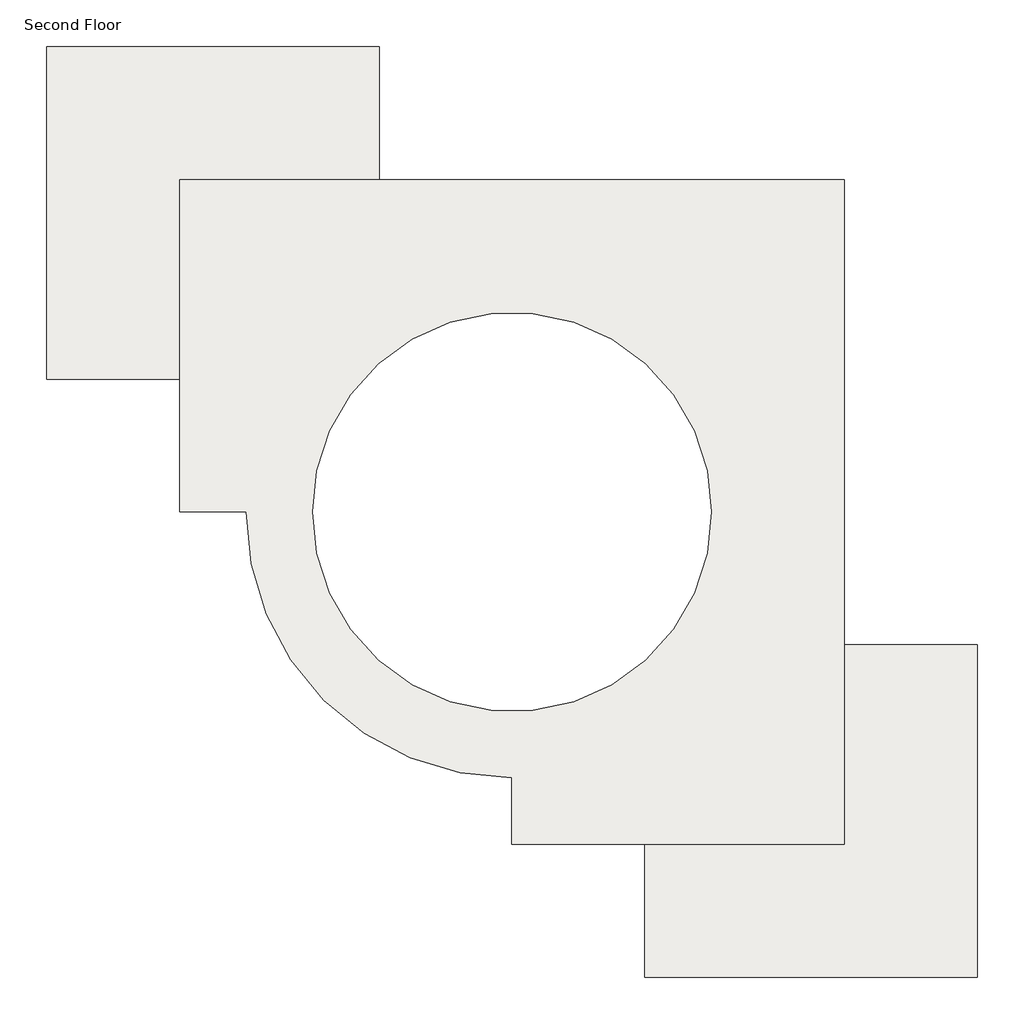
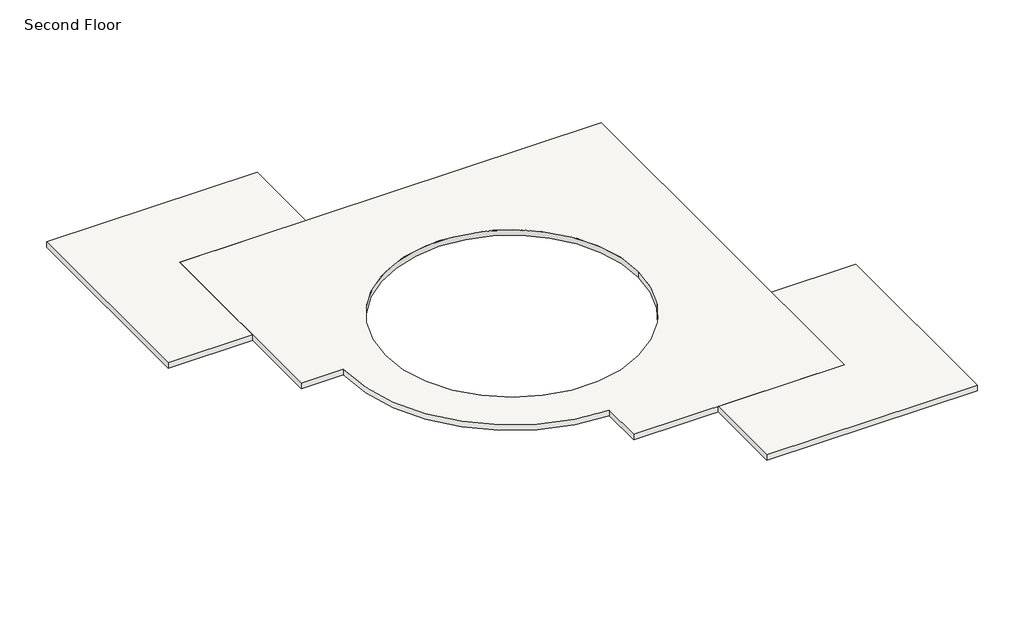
# One storey: 2 slabs.
"""IFC4 building model written with IfcOpenShell, lengths in millimetres."""

from ifc_helpers import new_model, si_unit, point, frame, frame_2d, origin, place, context, project, spatial, polyline, circle_curve, trimmed, segment, composite_curve, outline, extrude, element, save

model = new_model("IFC4")

# Units and contexts
model_context = context("Model", 3, world=origin())
ifc_project = project(units=[si_unit("LENGTHUNIT", "METRE", prefix="MILLI")], contexts=[model_context])

# Site, building, storey
site = spatial("IfcSite", under=ifc_project)
building = spatial("IfcBuilding", under=site)
storey = spatial("IfcBuildingStorey", under=building, Name="Second Floor", Elevation=3048.0)

# Slabs
placement = place(None, origin())
element("IfcSlab", 1, ObjectType="160mm Concrete With 50mm Metal Deck", at=placement, inside=storey, context=model_context, shape_type="SweptSolid", body=[
    extrude(outline(composite_curve([segment(polyline([(8463.0350085, 7792.852658), (8463.0350085, -7447.147342), (843.0350085, -7447.147342), (843.0350085, -5923.147342)]), True, "CONTINUOUS"), segment(trimmed(circle_curve(frame_2d((843.0350085, 172.852658)), 6096.0), [point((843.0350085, -5923.147342))], [point((-5252.9649915, 172.852658))], False, "CARTESIAN"), True, "CONTINUOUS"), segment(polyline([(-5252.9649915, 172.852658), (-6776.9649915, 172.852658), (-6776.9649915, 7792.852658), (8463.0350085, 7792.852658)]), True, "CONTINUOUS")], self_intersect=False), holes=[composite_curve([segment(trimmed(circle_curve(frame_2d((843.0350085, 172.852658)), 4572.0), [point((5415.0350085, 172.852658))], [point((-3728.9649915, 172.852658))], True, "CARTESIAN"), True, "CONTINUOUS"), segment(trimmed(circle_curve(frame_2d((843.0350085, 172.852658)), 4572.0), [point((-3728.9649915, 172.852658))], [point((5415.0350085, 172.852658))], True, "CARTESIAN"), True, "CONTINUOUS")], self_intersect=False)]), frame((0.0, 0.0, 2838.0), z_axis=(0.0, 0.0, 1.0), x_axis=(1.0, 0.0, 0.0)), (0.0, 0.0, 1.0), 210.0),
])
element("IfcSlab", 2, ObjectType="160mm Concrete With 50mm Metal Deck", at=placement, inside=storey, context=model_context, shape_type="SweptSolid", body=[
    extrude(outline(polyline([(-2204.9649915, 7792.852658), (-6776.9649915, 7792.852658), (-6776.9649915, 3220.852658), (-9824.9649915, 3220.852658), (-9824.9649915, 10840.852658), (-2204.9649915, 10840.852658), (-2204.9649915, 7792.852658)])), frame((0.0, 0.0, 2838.0), z_axis=(0.0, 0.0, 1.0), x_axis=(1.0, 0.0, 0.0)), (0.0, 0.0, 1.0), 210.0),
    extrude(outline(polyline([(8463.0350085, -2875.147342), (11511.0350085, -2875.147342), (11511.0350085, -10495.147342), (3891.0350085, -10495.147342), (3891.0350085, -7447.147342), (8463.0350085, -7447.147342), (8463.0350085, -2875.147342)])), frame((0.0, 0.0, 2838.0), z_axis=(0.0, 0.0, 1.0), x_axis=(1.0, 0.0, 0.0)), (0.0, 0.0, 1.0), 210.0),
])

save(model, "model.ifc")
